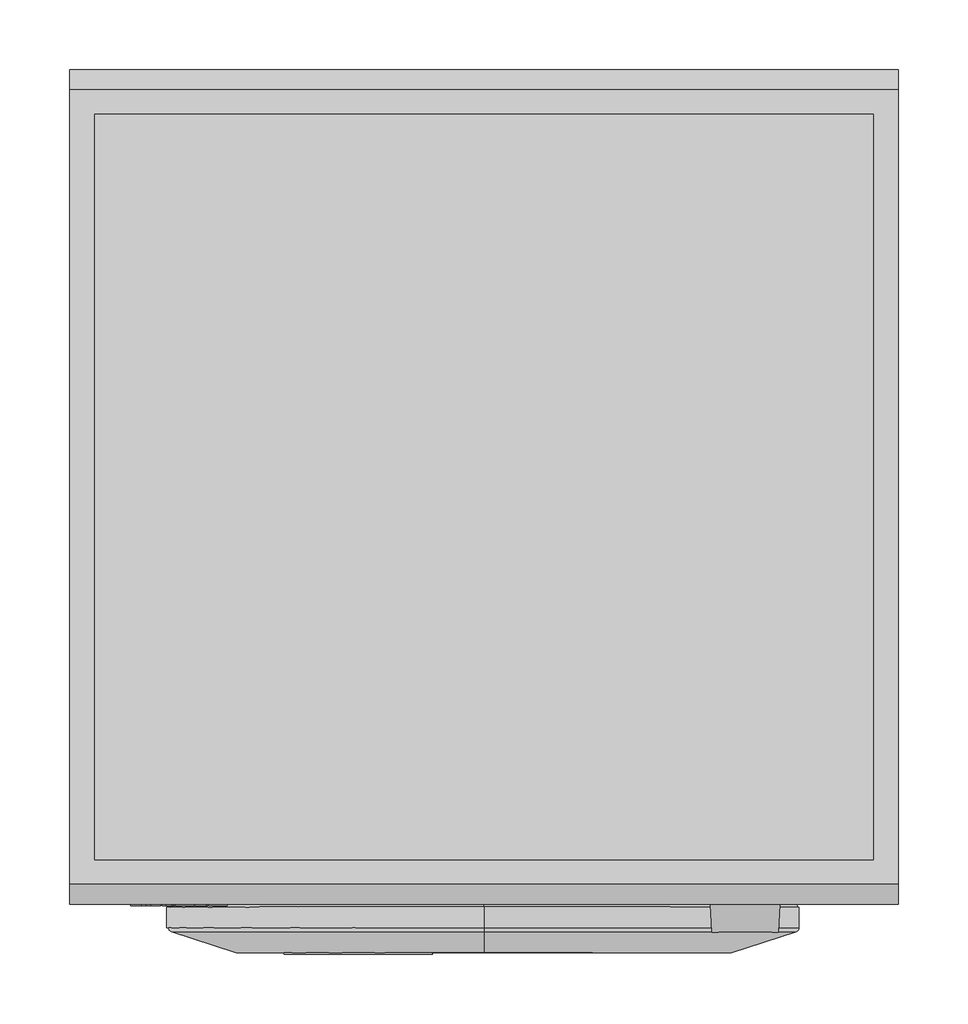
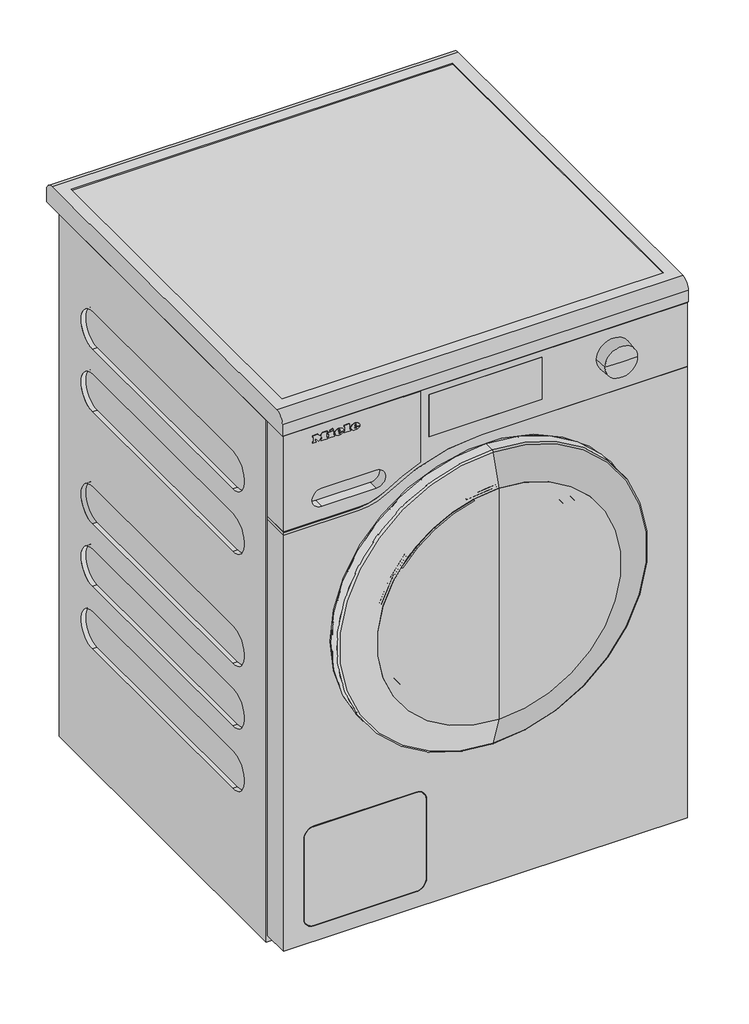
# Not in any storey: 1 proxy.
"""IFC4 building model written with IfcOpenShell, lengths in millimetres."""

from ifc_helpers import new_model, si_unit, origin, place, context, project, spatial, transform, mapped, element, save
from components import specialty_equipment_79eebb6a, specialty_equipment_4a6f3dc0

model = new_model("IFC4")

# Units and contexts
model_context = context("Model", 3, world=origin())
ifc_project = project(units=[si_unit("LENGTHUNIT", "METRE", prefix="MILLI")], contexts=[model_context])

# Site, building
site = spatial("IfcSite", under=ifc_project)
building = spatial("IfcBuilding", under=site)

# Proxy
placement = place(None, origin())
specialty_equipment_shape = specialty_equipment_79eebb6a(model_context)
specialty_equipment_2_shape = specialty_equipment_4a6f3dc0(model_context)
element("IfcBuildingElementProxy", 1, Name="11664210_RU_WEA025WCS_LW : 11EA0251_RU_11664210_WEA025WCS_LW", ObjectType="11664210_RU_WEA025WCS_LW : 11EA0251_RU_11664210_WEA025WCS_LW", at=placement, inside=building, context=model_context, shape_type="MappedRepresentation", body=[
    mapped(specialty_equipment_shape, transform((0.0, 0.0, 0.0), x_axis=(1.0, 0.0, 0.0), y_axis=(0.0, 1.0, 0.0), z_axis=(0.0, 0.0, 1.0))),
    mapped(specialty_equipment_2_shape, transform((0.0, 0.0, 0.0), x_axis=(1.0, 0.0, 0.0), y_axis=(0.0, 1.0, 0.0), z_axis=(0.0, 0.0, 1.0))),
])

save(model, "model.ifc")
